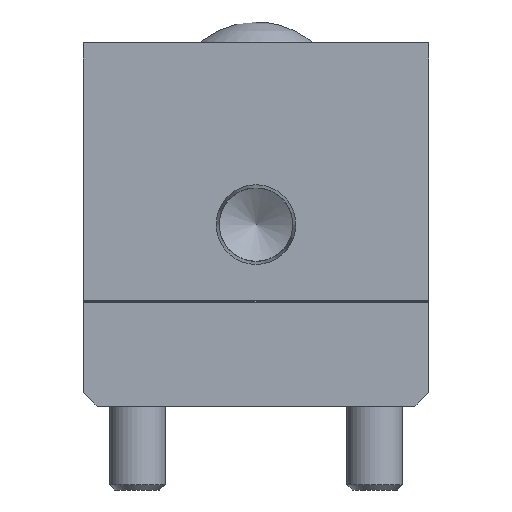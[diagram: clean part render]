
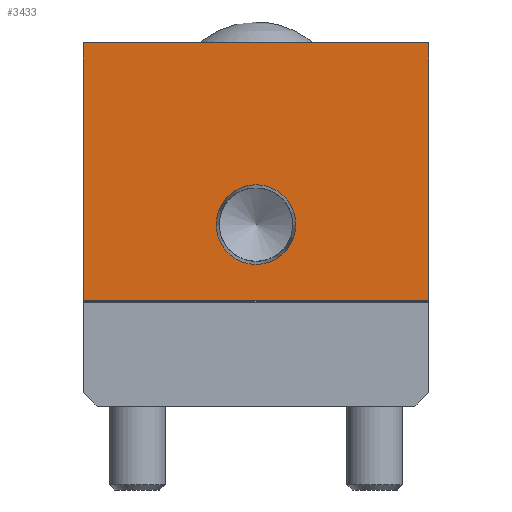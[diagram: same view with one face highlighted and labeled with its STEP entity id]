
A CAD part, front view. The second image highlights one B-rep face of the part: STEP entity #3433.
In plain terms, the highlighted planar face has unit normal (0, -1, 0).
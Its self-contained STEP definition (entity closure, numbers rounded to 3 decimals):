
#182=FACE_BOUND('',#717,.T.);
#277=CIRCLE('',#3658,5.704);
#463=FACE_OUTER_BOUND('',#716,.T.);
#716=EDGE_LOOP('',(#2459,#2460,#2461,#2462));
#717=EDGE_LOOP('',(#2463));
#1046=LINE('',#5097,#1314);
#1049=LINE('',#5102,#1317);
#1051=LINE('',#5110,#1319);
#1065=LINE('',#5146,#1333);
#1314=VECTOR('',#4119,36.9);
#1317=VECTOR('',#4124,49.5);
#1319=VECTOR('',#4132,36.9);
#1333=VECTOR('',#4176,49.5);
#1565=VERTEX_POINT('',#5094);
#1566=VERTEX_POINT('',#5096);
#1567=VERTEX_POINT('',#5100);
#1570=VERTEX_POINT('',#5108);
#1574=VERTEX_POINT('',#5122);
#1889=EDGE_CURVE('',#1566,#1565,#1046,.T.);
#1892=EDGE_CURVE('',#1565,#1567,#1049,.T.);
#1896=EDGE_CURVE('',#1570,#1567,#1051,.T.);
#1901=EDGE_CURVE('',#1574,#1574,#277,.T.);
#1914=EDGE_CURVE('',#1570,#1566,#1065,.T.);
#2459=ORIENTED_EDGE('',*,*,#1914,.T.);
#2460=ORIENTED_EDGE('',*,*,#1889,.T.);
#2461=ORIENTED_EDGE('',*,*,#1892,.T.);
#2462=ORIENTED_EDGE('',*,*,#1896,.F.);
#2463=ORIENTED_EDGE('',*,*,#1901,.T.);
#3102=PLANE('',#3691);
#3433=ADVANCED_FACE('',(#463,#182),#3102,.T.);
#3658=AXIS2_PLACEMENT_3D('',#5123,#4147,#4148);
#3691=AXIS2_PLACEMENT_3D('',#5184,#4230,#4231);
#4119=DIRECTION('',(0.,0.,1.));
#4124=DIRECTION('',(-1.,0.,0.));
#4132=DIRECTION('',(0.,0.,1.));
#4147=DIRECTION('center_axis',(0.,1.,0.));
#4148=DIRECTION('ref_axis',(1.,0.,0.));
#4176=DIRECTION('',(1.,0.,0.));
#4230=DIRECTION('center_axis',(0.,-1.,0.));
#4231=DIRECTION('ref_axis',(0.,0.,-1.));
#5094=CARTESIAN_POINT('',(24.75,0.,52.));
#5096=CARTESIAN_POINT('',(24.75,0.,15.1));
#5097=CARTESIAN_POINT('',(24.75,0.,0.));
#5100=CARTESIAN_POINT('',(-24.75,0.,52.));
#5102=CARTESIAN_POINT('',(24.75,0.,52.));
#5108=CARTESIAN_POINT('',(-24.75,0.,15.1));
#5110=CARTESIAN_POINT('',(-24.75,0.,0.));
#5122=CARTESIAN_POINT('',(5.704,0.,26.));
#5123=CARTESIAN_POINT('Origin',(0.,0.,26.));
#5146=CARTESIAN_POINT('',(24.75,0.,15.1));
#5184=CARTESIAN_POINT('Origin',(24.75,0.,0.));
